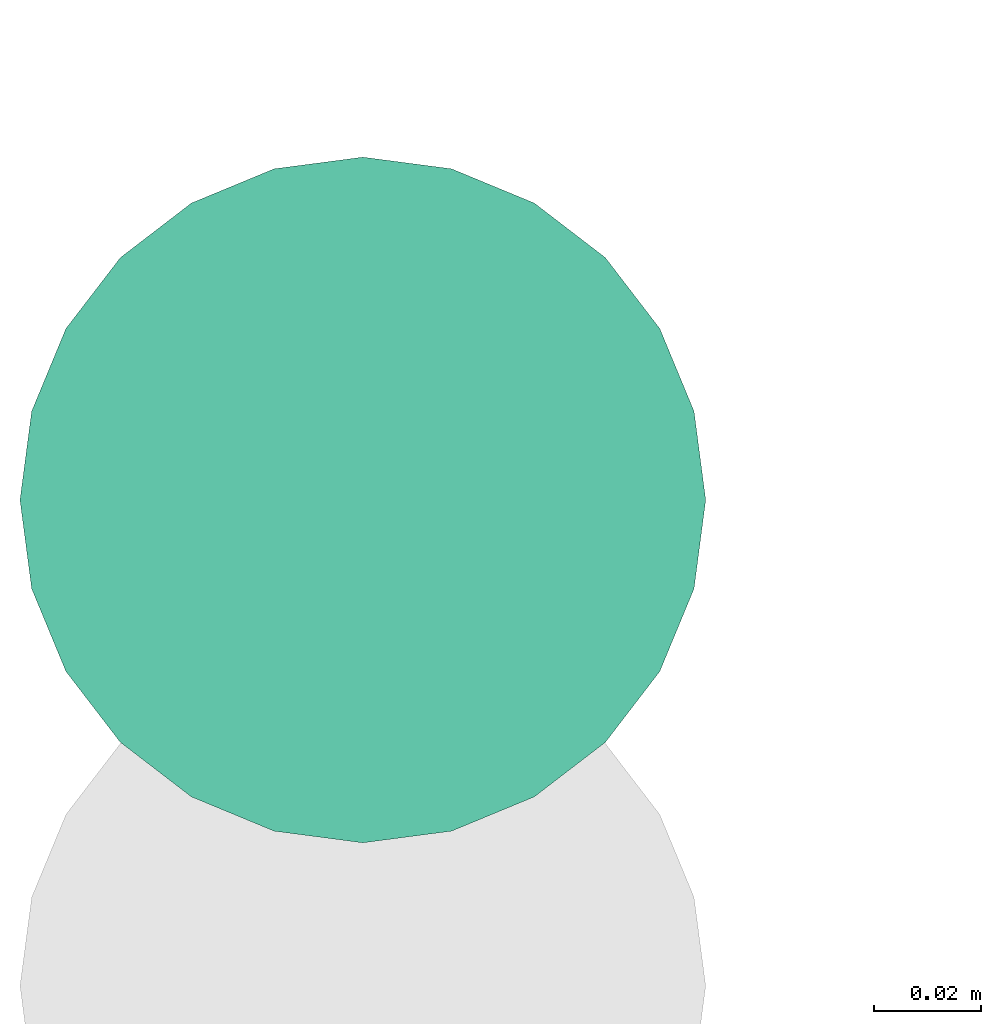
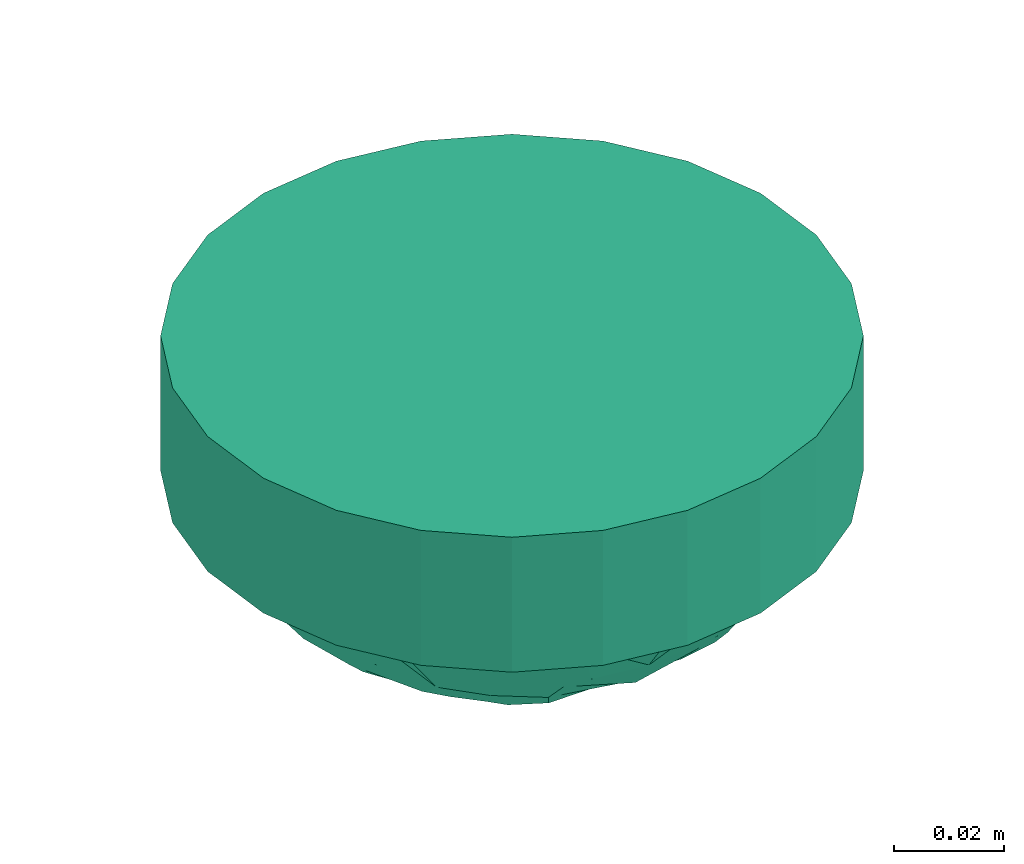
# One storey, part 28 of 153: 1 flow terminal.
"""IFC2X3 building model written with IfcOpenShell, lengths in metres."""

from ifc_helpers import new_model, entity, si_unit, converted_unit, derived_unit, direction, frame, origin, place, context, subcontext, project, spatial, faceted_brep, source, transform, mapped, type_object, type_shapes, element, save


model = new_model("IFC2X3")

# Units and contexts
model_context = context("Model", 3, precision=1e-05, world=origin(), true_north=direction((6.12303176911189e-17, 1.0)))
body_context = subcontext(model_context, "Body", "Model", "MODEL_VIEW")
ifc_project = project(units=[si_unit("LENGTHUNIT", "METRE"), si_unit("AREAUNIT", "SQUARE_METRE"), si_unit("VOLUMEUNIT", "CUBIC_METRE"), converted_unit("PLANEANGLEUNIT", "DEGREE", entity("IfcRatioMeasure", 0.0174532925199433), si_unit("PLANEANGLEUNIT", "RADIAN"), dimensions=[0, 0, 0, 0, 0, 0, 0]), si_unit("MASSUNIT", "GRAM", prefix="KILO"), derived_unit("MASSDENSITYUNIT", [(si_unit("MASSUNIT", "GRAM", prefix="KILO"), 1), (si_unit("LENGTHUNIT", "METRE"), -3)]), si_unit("TIMEUNIT", "SECOND"), si_unit("FREQUENCYUNIT", "HERTZ"), si_unit("THERMODYNAMICTEMPERATUREUNIT", "DEGREE_CELSIUS"), derived_unit("THERMALTRANSMITTANCEUNIT", [(si_unit("MASSUNIT", "GRAM", prefix="KILO"), 1), (si_unit("THERMODYNAMICTEMPERATUREUNIT", "KELVIN"), -1), (si_unit("TIMEUNIT", "SECOND"), -3)]), derived_unit("VOLUMETRICFLOWRATEUNIT", [(si_unit("LENGTHUNIT", "METRE"), 3), (si_unit("TIMEUNIT", "SECOND"), -1)]), si_unit("ELECTRICCURRENTUNIT", "AMPERE"), si_unit("ELECTRICVOLTAGEUNIT", "VOLT"), si_unit("POWERUNIT", "WATT"), si_unit("FORCEUNIT", "NEWTON"), si_unit("ILLUMINANCEUNIT", "LUX"), si_unit("LUMINOUSFLUXUNIT", "LUMEN"), si_unit("LUMINOUSINTENSITYUNIT", "CANDELA"), derived_unit("USERDEFINED", [(si_unit("MASSUNIT", "GRAM", prefix="KILO"), -1), (si_unit("LENGTHUNIT", "METRE"), -2), (si_unit("TIMEUNIT", "SECOND"), 3), (si_unit("LUMINOUSFLUXUNIT", "LUMEN"), 1)]), derived_unit("LINEARVELOCITYUNIT", [(si_unit("LENGTHUNIT", "METRE"), 1), (si_unit("TIMEUNIT", "SECOND"), -1)]), si_unit("PRESSUREUNIT", "PASCAL"), derived_unit("USERDEFINED", [(si_unit("LENGTHUNIT", "METRE"), -2), (si_unit("MASSUNIT", "GRAM", prefix="KILO"), 1), (si_unit("TIMEUNIT", "SECOND"), -2)])], contexts=[model_context])

# Site, building, storey
site_placement = place(None, origin())
site = spatial("IfcSite", under=ifc_project, at=site_placement, Name="Default", CompositionType="ELEMENT")
building_placement = place(site_placement, origin())
building = spatial("IfcBuilding", under=site, at=building_placement, CompositionType="ELEMENT")
storey_placement = place(building_placement, frame((0.0, 0.0, -4.62)))
storey = spatial("IfcBuildingStorey", under=building, at=storey_placement, Name="S02", CompositionType="ELEMENT", Elevation=-4.62)

# Flow terminal
light_fixture_type = type_object("IfcLightFixtureType", Name="Détecteur 360°", PredefinedType="NOTDEFINED")
shared_shape = source(origin(), body_context, "Body", "Brep", [
    faceted_brep([(0.0, -0.0397165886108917, 0.0531256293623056), (0.0, -0.034524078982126, 0.0563702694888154), (-0.0175153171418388, -0.0435914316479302, 0.0478512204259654), (-0.0194029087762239, -0.000878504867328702, 0.0644483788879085), (0.0, 0.0, 0.0669999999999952), (0.0, 0.00603476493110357, 0.0659648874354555), (-0.0174057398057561, -0.0159851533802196, 0.0630502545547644), (-0.0366619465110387, -0.0127227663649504, 0.0549213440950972), (-0.026998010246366, -0.0195753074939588, 0.0584711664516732), (-0.0202403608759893, -0.0335607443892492, 0.054639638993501), (-0.0359767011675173, -0.0348394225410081, 0.0444249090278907), (-0.0276843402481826, -0.0401006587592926, 0.0459804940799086), (-0.0133088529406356, -0.0517577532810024, 0.0400582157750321), (-0.0172617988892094, -0.0486391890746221, 0.042533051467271), (-0.0256912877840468, -0.0533485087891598, 0.0299999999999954), (-0.0462941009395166, -0.0369183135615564, 0.0299999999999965), (0.0, -0.0241390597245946, 0.0628595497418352), (-0.0186245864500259, -0.0267295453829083, 0.0589100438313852), (-0.0139070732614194, -0.0374370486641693, 0.0540817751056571), (0.0, 0.0449090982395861, 0.049880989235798), (-0.0172618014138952, 0.0486391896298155, 0.0425330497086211), (0.0, 0.0397165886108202, 0.0531256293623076), (-0.0186245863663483, 0.0267295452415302, 0.0589100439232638), (-0.0202403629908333, 0.0335607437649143, 0.054639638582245), (-0.0353547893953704, 0.0284533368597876, 0.0494330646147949), (0.0, 0.0120695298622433, 0.0649297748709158), (-0.0249385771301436, 0.0204731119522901, 0.0590841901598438), (-0.0191783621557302, 0.0150189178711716, 0.062775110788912), (-0.0465404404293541, -0.0196510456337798, 0.0438984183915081), (-0.052010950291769, -0.0250471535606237, 0.029999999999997), (-0.0453471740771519, -0.0286501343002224, 0.0397747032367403), (-0.0365036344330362, -0.0226255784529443, 0.0516441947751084), (-0.0175153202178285, 0.0435914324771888, 0.0478512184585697), (-0.0359926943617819, 0.0451334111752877, 0.0299999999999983), (-0.0276843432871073, 0.0401006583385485, 0.0459804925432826), (-0.00849704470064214, -0.0572729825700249, 0.0299999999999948), (0.0, -0.0592123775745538, 0.0299999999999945), (0.0, -0.0545512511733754, 0.0364787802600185), (0.0, -0.049890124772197, 0.0429575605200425), (-0.0169940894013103, -0.055333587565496, 0.0299999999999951), (-0.0359767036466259, 0.0348394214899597, 0.0444249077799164), (-0.025691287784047, 0.0533485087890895, 0.0299999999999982), (-0.0308419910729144, 0.0492409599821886, 0.0299999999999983), (-0.0130265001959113, 0.0514867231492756, 0.040526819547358), (-0.0169940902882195, 0.0553335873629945, 0.029999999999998), (0.0, 0.0498901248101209, 0.0429575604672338), (-0.0353547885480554, -0.0284533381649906, 0.0494330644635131), (0.0, 0.0181042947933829, 0.0638946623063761), (-0.0473669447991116, -0.00128092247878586, 0.0474310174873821), (-0.0485435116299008, -0.00908961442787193, 0.0452357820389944), (-0.0366597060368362, -0.0032867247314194, 0.0563153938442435), (-0.0226425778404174, -0.0107553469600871, 0.0624973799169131), (0.0, -0.00603476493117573, 0.0659648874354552), (0.0, 0.0293315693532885, 0.0596149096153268), (-0.0139070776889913, 0.0374370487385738, 0.0540817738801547), (-0.0449600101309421, 0.018422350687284, 0.0461366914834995), (-0.0453471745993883, 0.0286501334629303, 0.0397747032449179), (-0.0476906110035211, 0.00670602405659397, 0.0466053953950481), (-0.0577277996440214, 0.0131759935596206, 0.0299999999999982), (-0.0577277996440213, 0.00658799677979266, 0.029999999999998), (-0.0577277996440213, 0.0, 0.0299999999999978), (0.0, -0.0449090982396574, 0.0498809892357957), (-0.0308419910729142, -0.049240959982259, 0.0299999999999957), (-0.0359926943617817, -0.0451334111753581, 0.029999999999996), (0.0, 0.0345240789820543, 0.0563702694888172), (-0.0411433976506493, 0.0410258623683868, 0.0299999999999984), (-0.0462941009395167, 0.0369183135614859, 0.0299999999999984), (-0.0491525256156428, -0.03098273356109, 0.0299999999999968), (-0.0577277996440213, -0.0131759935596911, 0.0299999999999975), (0.0, -0.018104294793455, 0.0638946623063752), (-0.0377433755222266, 0.0044838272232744, 0.0554913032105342), (-0.0577277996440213, -0.00658799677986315, 0.0299999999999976), (-0.0385149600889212, 0.0124844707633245, 0.0536578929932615), (-0.0491525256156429, 0.0309827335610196, 0.0299999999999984), (-0.0548693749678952, 0.0191115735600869, 0.0299999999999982), (0.0, 0.0241390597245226, 0.0628595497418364), (-0.014625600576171, 0.0100436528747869, 0.0649170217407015), (-0.0271766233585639, 0.00920278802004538, 0.0609170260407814), (0.0, -0.0120695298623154, 0.0649297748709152), (-0.0520109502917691, 0.0250471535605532, 0.0299999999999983), (-0.0411433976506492, -0.0410258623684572, 0.0299999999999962), (-0.0548693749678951, -0.0191115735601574, 0.0299999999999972), (0.0, -0.0293315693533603, 0.0596149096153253), (0.0, 0.0545512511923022, 0.0364787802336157), (0.0, 0.0592123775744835, 0.0299999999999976), (-0.00849704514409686, 0.057272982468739, 0.0299999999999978), (-0.0127455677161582, 0.0563032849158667, 0.0299999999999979), (-0.0213426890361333, 0.054341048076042, 0.0299999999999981), (0.0175153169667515, 0.0435914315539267, 0.0478512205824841), (0.0194029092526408, 0.000878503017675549, 0.0644483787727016), (0.017405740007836, 0.0159851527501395, 0.0630502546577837), (0.0366619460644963, 0.012722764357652, 0.0549213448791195), (0.0269980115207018, 0.0195753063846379, 0.0584711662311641), (0.0202403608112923, 0.0335607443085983, 0.0546396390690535), (0.0359767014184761, 0.0348394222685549, 0.0444249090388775), (0.0276843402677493, 0.0401006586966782, 0.0459804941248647), (0.0133088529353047, 0.0517577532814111, 0.0400582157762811), (0.0172617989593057, 0.0486391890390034, 0.0425330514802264), (0.0256912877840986, 0.0533485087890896, 0.0299999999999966), (0.0462941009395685, 0.0369183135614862, 0.0299999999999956), (0.00849704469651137, 0.0572729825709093, 0.0299999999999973), (0.0169940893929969, 0.0553335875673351, 0.029999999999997), (0.0172617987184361, -0.0486391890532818, 0.0425330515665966), (0.025691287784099, -0.0533485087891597, 0.0299999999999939), (0.0308419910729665, -0.0492409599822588, 0.0299999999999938), (0.0175153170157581, -0.0435914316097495, 0.0478512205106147), (0.0186245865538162, -0.0267295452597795, 0.0589100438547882), (0.0202403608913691, -0.03356074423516, 0.0546396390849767), (0.0353547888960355, -0.0284533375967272, 0.0494330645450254), (0.0249385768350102, -0.0204731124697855, 0.0590841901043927), (0.0191783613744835, -0.0150189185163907, 0.062775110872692), (0.0465404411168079, 0.0196510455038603, 0.0438984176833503), (0.0577277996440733, 0.0131759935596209, 0.0299999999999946), (0.0548693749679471, 0.0191115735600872, 0.0299999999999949), (0.0520109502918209, 0.0250471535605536, 0.0299999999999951), (0.0365036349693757, 0.0226255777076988, 0.0516441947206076), (0.0186245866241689, 0.0267295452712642, 0.0589100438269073), (0.0359926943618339, -0.0451334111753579, 0.0299999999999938), (0.0276843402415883, -0.0401006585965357, 0.0459804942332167), (0.0139070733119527, 0.0374370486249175, 0.0540817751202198), (0.0359767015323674, -0.0348394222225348, 0.044424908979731), (0.0226425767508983, 0.0107553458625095, 0.0624973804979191), (0.0169940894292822, -0.0553335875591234, 0.0299999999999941), (0.0130264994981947, -0.0514867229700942, 0.0405268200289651), (0.0453471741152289, 0.0286501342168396, 0.039774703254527), (0.0353547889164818, 0.0284533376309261, 0.0494330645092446), (0.0473669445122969, 0.00128092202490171, 0.0474310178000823), (0.0485435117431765, 0.00908961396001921, 0.0452357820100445), (0.0366597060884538, 0.00328672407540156, 0.0563153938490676), (0.0139070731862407, -0.0374370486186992, 0.0540817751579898), (0.0449600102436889, -0.018422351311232, 0.0461366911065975), (0.0453471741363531, -0.0286501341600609, 0.039774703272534), (0.0476906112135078, -0.00670602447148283, 0.046605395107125), (0.0577277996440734, -0.0131759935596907, 0.0299999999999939), (0.0577277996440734, -0.00658799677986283, 0.0299999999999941), (0.0577277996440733, 0.0, 0.0299999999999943), (0.0308419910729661, 0.0492409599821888, 0.0299999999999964), (0.0359926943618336, 0.0451334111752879, 0.0299999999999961), (0.0411433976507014, -0.041025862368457, 0.0299999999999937), (0.0462941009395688, -0.0369183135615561, 0.0299999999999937), (0.0491525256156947, 0.0309827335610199, 0.0299999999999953), (0.037743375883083, -0.00448382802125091, 0.0554913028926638), (0.0577277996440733, 0.00658799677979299, 0.0299999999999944), (0.0385149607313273, -0.0124844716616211, 0.0536578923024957), (0.049152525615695, -0.0309827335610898, 0.0299999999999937), (0.0548693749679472, -0.0191115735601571, 0.0299999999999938), (0.0146256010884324, -0.0100436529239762, 0.0649170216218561), (0.0271766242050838, -0.00920278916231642, 0.0609170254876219), (0.0520109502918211, -0.0250471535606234, 0.0299999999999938), (0.041143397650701, 0.0410258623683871, 0.0299999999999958), (0.00849704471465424, -0.0572729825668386, 0.0299999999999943), (0.0127455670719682, -0.056303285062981, 0.0299999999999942), (0.0213426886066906, -0.0543410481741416, 0.029999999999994), (0.0, 0.0, 0.0299999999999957)], [[[0, 1, 2]], [[3, 4, 5]], [[6, 7, 8]], [[9, 10, 11]], [[12, 13, 14]], [[10, 15, 11]], [[9, 16, 17]], [[18, 9, 11]], [[19, 20, 21]], [[22, 23, 24]], [[25, 26, 27]], [[28, 29, 30]], [[8, 31, 17]], [[32, 33, 34]], [[35, 36, 37, 38, 39]], [[23, 40, 24]], [[20, 41, 42]], [[19, 43, 20]], [[44, 43, 45]], [[20, 32, 21]], [[30, 10, 46]], [[22, 26, 47]], [[48, 49, 50]], [[3, 51, 52]], [[53, 54, 23]], [[55, 24, 56]], [[57, 58, 59, 60]], [[13, 61, 0]], [[13, 0, 2]], [[2, 62, 13]], [[18, 2, 1]], [[2, 11, 63]], [[32, 64, 21]], [[32, 42, 33]], [[34, 33, 65, 66]], [[20, 42, 32]], [[54, 32, 34]], [[28, 30, 31]], [[10, 67, 15]], [[49, 68, 28]], [[8, 17, 69]], [[7, 6, 51]], [[28, 31, 7]], [[57, 48, 70]], [[58, 57, 55]], [[48, 71, 49]], [[70, 48, 50]], [[3, 50, 51]], [[55, 26, 24]], [[72, 57, 70]], [[26, 55, 72]], [[56, 40, 73]], [[56, 74, 55]], [[47, 75, 22]], [[52, 4, 3]], [[7, 50, 49]], [[5, 76, 3]], [[70, 3, 77]], [[51, 78, 52]], [[26, 25, 47]], [[76, 25, 27]], [[23, 22, 75]], [[26, 22, 24]], [[53, 64, 54]], [[23, 34, 40]], [[66, 40, 34]], [[40, 66, 73]], [[56, 73, 79, 74]], [[72, 27, 26]], [[40, 56, 24]], [[23, 75, 53]], [[69, 17, 16]], [[78, 6, 69]], [[46, 10, 9]], [[46, 9, 17]], [[50, 7, 51]], [[30, 29, 67]], [[80, 63, 11, 15]], [[28, 68, 81, 29]], [[10, 30, 67]], [[30, 46, 31]], [[82, 18, 1]], [[82, 16, 9]], [[28, 7, 49]], [[12, 39, 38]], [[61, 13, 12]], [[83, 84, 85, 86, 44, 45]], [[43, 41, 20]], [[44, 87, 41, 43]], [[32, 54, 64]], [[23, 54, 34]], [[9, 18, 82]], [[2, 18, 11]], [[39, 12, 14]], [[38, 61, 12]], [[62, 2, 63]], [[62, 14, 13]], [[17, 31, 46]], [[7, 31, 8]], [[48, 60, 71]], [[71, 68, 49]], [[60, 48, 57]], [[3, 70, 50]], [[72, 70, 77]], [[72, 77, 27]], [[55, 57, 72]], [[74, 58, 55]], [[76, 27, 77]], [[3, 76, 77]], [[25, 76, 5]], [[69, 6, 8]], [[78, 51, 6]], [[45, 43, 19]], [[21, 64, 88]], [[89, 4, 52]], [[90, 91, 92]], [[93, 94, 95]], [[96, 97, 98]], [[94, 99, 95]], [[100, 84, 83, 45, 101]], [[102, 103, 104]], [[102, 105, 0]], [[106, 107, 108]], [[78, 109, 110]], [[111, 112, 113, 114]], [[92, 115, 116]], [[105, 117, 118]], [[119, 93, 95]], [[107, 120, 108]], [[89, 121, 5]], [[122, 123, 38]], [[61, 123, 102]], [[93, 75, 116]], [[124, 94, 125]], [[106, 109, 69]], [[126, 127, 128]], [[61, 102, 0]], [[82, 129, 107]], [[130, 108, 131]], [[132, 133, 134, 135]], [[97, 19, 21]], [[97, 21, 88]], [[88, 136, 97]], [[119, 88, 64]], [[88, 95, 137]], [[105, 1, 0]], [[105, 104, 117]], [[118, 117, 138, 139]], [[102, 104, 105]], [[129, 105, 118]], [[111, 124, 115]], [[94, 140, 99]], [[127, 112, 111]], [[92, 116, 47]], [[91, 90, 121]], [[111, 115, 91]], [[132, 126, 141]], [[133, 132, 130]], [[126, 142, 127]], [[141, 126, 128]], [[89, 128, 121]], [[130, 109, 108]], [[143, 132, 141]], [[109, 130, 143]], [[131, 120, 144]], [[131, 145, 130]], [[69, 16, 106]], [[5, 4, 89]], [[91, 128, 127]], [[52, 146, 89]], [[141, 89, 147]], [[121, 25, 5]], [[109, 78, 69]], [[146, 78, 110]], [[107, 106, 16]], [[109, 106, 108]], [[82, 1, 129]], [[107, 118, 120]], [[139, 120, 118]], [[120, 139, 144]], [[131, 144, 148, 145]], [[143, 110, 109]], [[120, 131, 108]], [[107, 16, 82]], [[47, 116, 75]], [[25, 90, 47]], [[125, 94, 93]], [[125, 93, 116]], [[128, 91, 121]], [[124, 114, 140]], [[149, 137, 95, 99]], [[111, 114, 124]], [[94, 124, 140]], [[124, 125, 115]], [[53, 119, 64]], [[53, 75, 93]], [[111, 91, 127]], [[96, 101, 45]], [[19, 97, 96]], [[37, 36, 150, 151, 122, 38]], [[123, 103, 102]], [[122, 152, 103, 123]], [[105, 129, 1]], [[107, 129, 118]], [[93, 119, 53]], [[88, 119, 95]], [[101, 96, 98]], [[45, 19, 96]], [[136, 88, 137]], [[136, 98, 97]], [[116, 115, 125]], [[91, 115, 92]], [[126, 135, 142]], [[142, 112, 127]], [[135, 126, 132]], [[89, 141, 128]], [[143, 141, 147]], [[143, 147, 110]], [[130, 132, 143]], [[145, 133, 130]], [[146, 110, 147]], [[89, 146, 147]], [[78, 146, 52]], [[47, 90, 92]], [[25, 121, 90]], [[38, 123, 61]], [[153, 66, 65]], [[153, 65, 33]], [[153, 33, 42]], [[153, 42, 41]], [[153, 41, 87]], [[153, 73, 66]], [[153, 79, 73]], [[153, 74, 79]], [[153, 58, 74]], [[153, 87, 44]], [[153, 44, 86]], [[153, 86, 85]], [[153, 85, 84]], [[153, 84, 100]], [[153, 59, 58]], [[153, 60, 59]], [[153, 71, 60]], [[153, 68, 71]], [[153, 81, 68]], [[153, 29, 81]], [[153, 67, 29]], [[153, 15, 67]], [[153, 80, 15]], [[153, 63, 80]], [[153, 62, 63]], [[153, 14, 62]], [[153, 39, 14]], [[153, 35, 39]], [[153, 36, 35]], [[153, 100, 101]], [[153, 101, 98]], [[153, 98, 136]], [[153, 136, 137]], [[153, 137, 149]], [[153, 149, 99]], [[153, 99, 140]], [[153, 140, 114]], [[153, 114, 113]], [[153, 113, 112]], [[153, 112, 142]], [[153, 150, 36]], [[153, 151, 150]], [[153, 122, 151]], [[153, 152, 122]], [[153, 103, 152]], [[153, 104, 103]], [[153, 117, 104]], [[153, 138, 117]], [[153, 139, 138]], [[153, 144, 139]], [[153, 148, 144]], [[153, 145, 148]], [[153, 133, 145]], [[153, 142, 135]], [[153, 135, 134]], [[153, 134, 133]]]),
    faceted_brep([(0.0165644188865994, -0.0618192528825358, 0.029999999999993), (0.0320000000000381, -0.0554256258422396, 0.0299999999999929), (0.0452548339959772, -0.0452548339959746, 0.0299999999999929), (0.0554256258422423, -0.0320000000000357, 0.029999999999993), (0.0618192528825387, -0.016564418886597, 0.0299999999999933), (0.0640000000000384, 0.0, 0.0299999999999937), (0.0618192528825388, 0.016564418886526, 0.0299999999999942), (0.0554256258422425, 0.0319999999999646, 0.0299999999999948), (0.0452548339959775, 0.0452548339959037, 0.0299999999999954), (0.0320000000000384, 0.0554256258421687, 0.0299999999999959), (0.0165644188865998, 0.061819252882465, 0.0299999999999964), (0.0, 0.0639999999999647, 0.0299999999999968), (-0.0165644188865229, 0.061819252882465, 0.0299999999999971), (-0.0319999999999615, 0.0554256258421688, 0.0299999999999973), (-0.0452548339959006, 0.0452548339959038, 0.0299999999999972), (-0.0554256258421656, 0.0319999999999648, 0.0299999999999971), (-0.0618192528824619, 0.0165644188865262, 0.0299999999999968), (-0.0639999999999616, 0.0, 0.0299999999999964), (-0.061819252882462, -0.0165644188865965, 0.0299999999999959), (-0.0554256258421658, -0.0320000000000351, 0.0299999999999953), (-0.0452548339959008, -0.0452548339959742, 0.0299999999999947), (-0.0319999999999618, -0.0554256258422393, 0.0299999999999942), (-0.0165644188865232, -0.0618192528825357, 0.0299999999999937), (0.0, -0.0640000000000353, 0.0299999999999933), (0.0165644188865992, 0.0618192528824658, 0.0), (0.0320000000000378, 0.0554256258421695, 0.0), (0.0452548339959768, 0.0452548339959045, 0.0), (0.0554256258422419, 0.0319999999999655, 0.0), (0.0618192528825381, 0.0165644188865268, 0.0), (0.0640000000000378, 0.0, 0.0), (0.061819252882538, -0.0165644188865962, 0.0), (0.0554256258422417, -0.0320000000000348, 0.0), (0.0452548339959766, -0.0452548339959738, 0.0), (0.0320000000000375, -0.0554256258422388, 0.0), (0.0165644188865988, -0.061819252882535, 0.0), (0.0, -0.0640000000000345, 0.0), (-0.0165644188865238, -0.0618192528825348, 0.0), (-0.0319999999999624, -0.0554256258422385, 0.0), (-0.0452548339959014, -0.0452548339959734, 0.0), (-0.0554256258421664, -0.0320000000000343, 0.0), (-0.0618192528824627, -0.0165644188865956, 0.0), (-0.0639999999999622, 0.0, 0.0), (-0.0618192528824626, 0.016564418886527, 0.0), (-0.0554256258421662, 0.0319999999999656, 0.0), (-0.0452548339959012, 0.0452548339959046, 0.0), (-0.0319999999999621, 0.0554256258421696, 0.0), (-0.0165644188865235, 0.0618192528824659, 0.0), (0.0, 0.0639999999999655, 0.0)], [[[0, 1, 2, 3, 4, 5, 6, 7, 8, 9, 10, 11, 12, 13, 14, 15, 16, 17, 18, 19, 20, 21, 22, 23]], [[24, 25, 26, 27, 28, 29, 30, 31, 32, 33, 34, 35, 36, 37, 38, 39, 40, 41, 42, 43, 44, 45, 46, 47]], [[40, 18, 17, 41]], [[39, 19, 18, 40]], [[21, 20, 38, 37]], [[39, 38, 20, 19]], [[22, 21, 37, 36]], [[23, 22, 36, 35]], [[34, 0, 23, 35]], [[33, 1, 0, 34]], [[3, 2, 32, 31]], [[33, 32, 2, 1]], [[4, 3, 31, 30]], [[5, 4, 30, 29]], [[28, 6, 5, 29]], [[27, 7, 6, 28]], [[9, 8, 26, 25]], [[27, 26, 8, 7]], [[10, 9, 25, 24]], [[11, 10, 24, 47]], [[46, 12, 11, 47]], [[45, 13, 12, 46]], [[42, 41, 17, 16]], [[44, 14, 13, 45]], [[43, 15, 14, 44]], [[43, 42, 16, 15]]]),
])
type_shapes(light_fixture_type, [shared_shape])
flow_terminal_placement = place(storey_placement, frame((25.4897436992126, -194.407317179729, 4.62), z_axis=(0.0, 0.0, -1.0), x_axis=(1.0, 0.0, 0.0)))
element("IfcFlowTerminal", 1, at=flow_terminal_placement, inside=storey, type_object=light_fixture_type, Name="INT - Détecteur 360°:Détecteur 360°", ObjectType="INT - Détecteur 360°:Détecteur 360°", context=body_context, shape_type="MappedRepresentation", body=[
    mapped(shared_shape, transform((0.0, 0.0, 0.0), scale=1.0)),
])

save(model, "model.ifc")
